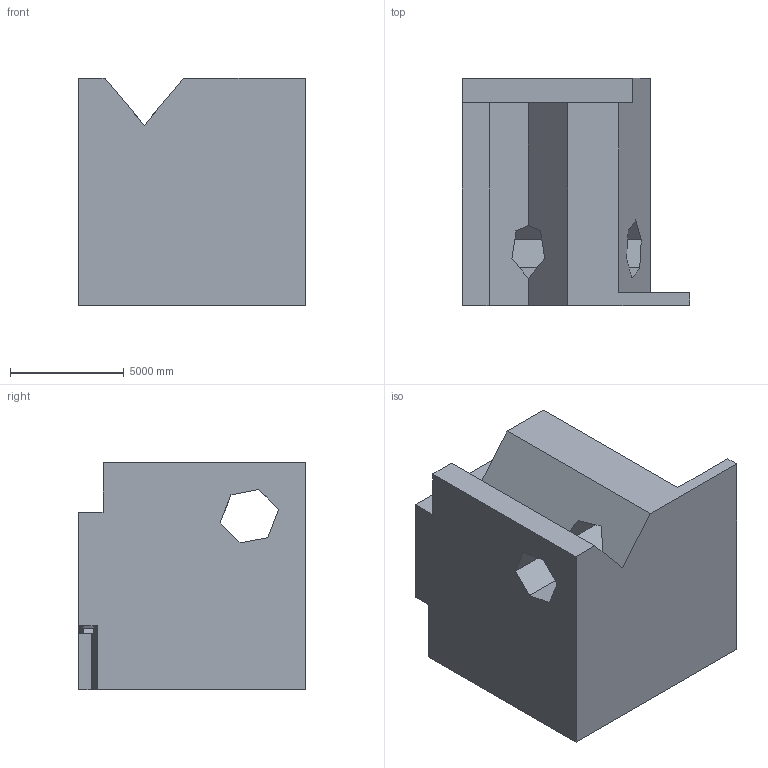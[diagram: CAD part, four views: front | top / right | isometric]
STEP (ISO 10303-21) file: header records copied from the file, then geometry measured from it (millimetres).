
FILE_DESCRIPTION (( 'STEP AP203' ), '1' );
FILE_NAME ('61.STEP', '2022-08-30T14:16:39', ( 'user' ), ( '' ), 'SwSTEP 2.0', 'SolidWorks 2021', '' );
FILE_SCHEMA (( 'CONFIG_CONTROL_DESIGN' ));
Length unit declared in the file: centimetre
Products named in the file (1): 61
Bounding box: 10000 x 10000 x 10000 mm (x, y, z)
Volume: 679846211454.9 mm3; surface area: 613303146.2 mm2
Topology: 1 solids, 1 shells, 35 faces, 105 edges, 70 vertices
Faces by surface type: plane 35
Entity records: 1244 total; most frequent: CARTESIAN_POINT 211, ORIENTED_EDGE 210, DIRECTION 177, LINE 105, EDGE_CURVE 105, VECTOR 105, VERTEX_POINT 70, EDGE_LOOP 37
